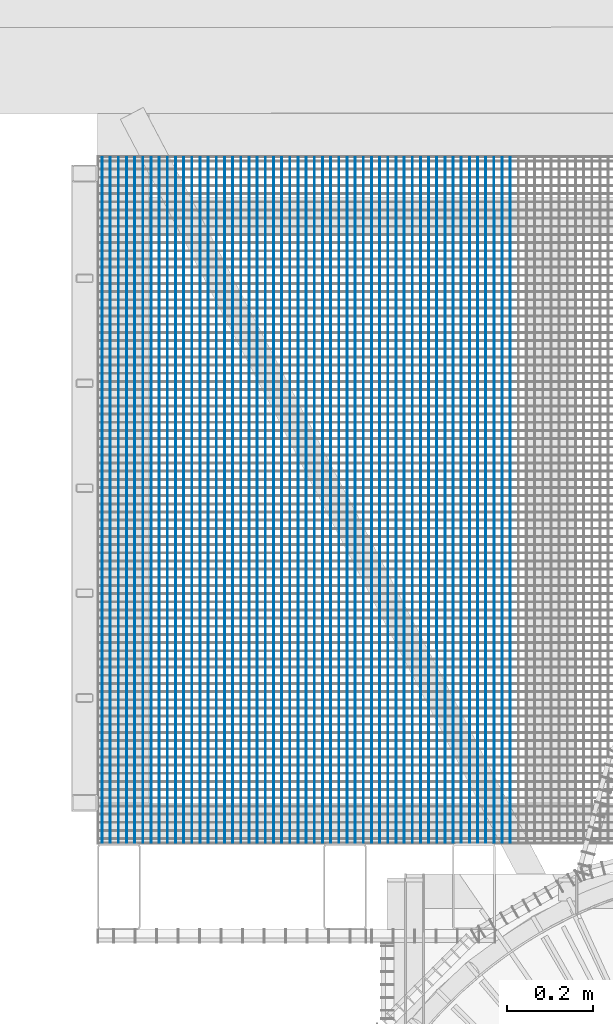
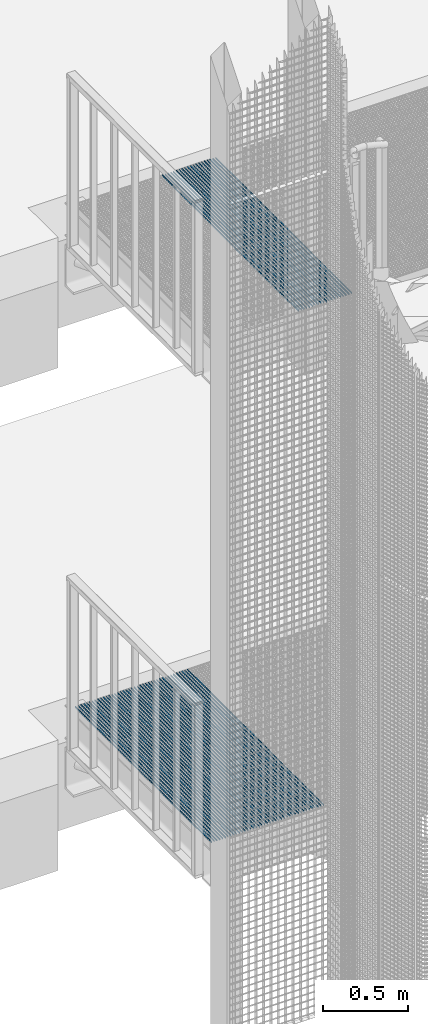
# One storey, part 80 of 1183: 61 beams, 2 elements without a shape of their own.
"""IFC2X3 building model written with IfcOpenShell, lengths in millimetres."""

from ifc_helpers import new_model, si_unit, frame, origin_with_axes, origin_2d_with_axis, place, context, subcontext, project, spatial, rectangle, extrude, material, type_object, element, aggregate, save


model = new_model("IFC2X3")

# Units and contexts
model_context = context("Model", 3, precision=1e-05, world=origin_with_axes())
body_context = subcontext(model_context, "Body", "Model", "MODEL_VIEW")
ifc_project = project(units=[si_unit("LENGTHUNIT", "METRE", prefix="MILLI"), si_unit("AREAUNIT", "SQUARE_METRE"), si_unit("VOLUMEUNIT", "CUBIC_METRE"), si_unit("MASSUNIT", "GRAM", prefix="KILO"), si_unit("TIMEUNIT", "SECOND"), si_unit("PLANEANGLEUNIT", "RADIAN"), si_unit("SOLIDANGLEUNIT", "STERADIAN"), si_unit("THERMODYNAMICTEMPERATUREUNIT", "DEGREE_CELSIUS"), si_unit("LUMINOUSINTENSITYUNIT", "LUMEN")], contexts=[model_context])

# Site, building, storey
site_placement = place(None, origin_with_axes())
site = spatial("IfcSite", under=ifc_project, at=site_placement, Name="Undefined", CompositionType="ELEMENT")
building_placement = place(site_placement, origin_with_axes())
building = spatial("IfcBuilding", under=site, at=building_placement, Name="Undefined", CompositionType="ELEMENT")
storey_placement = place(building_placement, origin_with_axes())
storey = spatial("IfcBuildingStorey", under=building, at=storey_placement, Name="Undefined", CompositionType="ELEMENT", Elevation=0.0)

# Assembly, beams
assembly_1_placement = place(storey_placement, origin_with_axes())
assembly_1 = element("IfcElementAssembly", 1, at=assembly_1_placement, inside=storey, Name="BORDURE", AssemblyPlace="NOTDEFINED", PredefinedType="NOTDEFINED")
ifc_material = material(Name="STEEL/S235JR")
beam_type = type_object("IfcBeamType", Name="PL2*10", PredefinedType="NOTDEFINED")
beam_1_placement = place(assembly_1_placement, frame((-949.924575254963, 1101.99764311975, 10085.0), z_axis=(0.0, 0.0, 1.0), x_axis=(-4.50599999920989e-06, 0.999999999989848, 0.0)))
beam_1 = element("IfcBeam", 2, at=beam_1_placement, type_object=beam_type, material=ifc_material, Name="ENTRETOISE", context=body_context, shape_type="SweptSolid", body=[
    extrude(rectangle(XDim=2.0, YDim=10.0, at=origin_2d_with_axis()), frame((1596.0000000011, -1.35186458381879e-18, -7.27595761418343e-12), z_axis=(-1.0, 0.0, 0.0), x_axis=(0.0, -1.0, 0.0)), (0.0, 0.0, 1.0), 1596.0),
])
beam_2_placement = place(assembly_1_placement, frame((-930.924575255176, 1101.99773663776, 10085.0), z_axis=(0.0, 0.0, 1.0), x_axis=(-4.50599999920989e-06, 0.999999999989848, 0.0)))
beam_2 = element("IfcBeam", 3, at=beam_2_placement, type_object=beam_type, material=ifc_material, Name="ENTRETOISE", context=body_context, shape_type="SweptSolid", body=[
    extrude(rectangle(XDim=2.0, YDim=10.0, at=origin_2d_with_axis()), frame((1596.0000000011, -1.35186458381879e-18, -7.27595761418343e-12), z_axis=(-1.0, 0.0, 0.0), x_axis=(0.0, -1.0, 0.0)), (0.0, 0.0, 1.0), 1596.0),
])
beam_3_placement = place(assembly_1_placement, frame((-911.924575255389, 1101.99783015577, 10085.0), z_axis=(0.0, 0.0, 1.0), x_axis=(-4.50599999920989e-06, 0.999999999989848, 0.0)))
beam_3 = element("IfcBeam", 4, at=beam_3_placement, type_object=beam_type, material=ifc_material, Name="ENTRETOISE", context=body_context, shape_type="SweptSolid", body=[
    extrude(rectangle(XDim=2.0, YDim=10.0, at=origin_2d_with_axis()), frame((1596.0000000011, -1.35186458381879e-18, -7.27595761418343e-12), z_axis=(-1.0, 0.0, 0.0), x_axis=(0.0, -1.0, 0.0)), (0.0, 0.0, 1.0), 1596.0),
])
beam_4_placement = place(assembly_1_placement, frame((-892.924575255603, 1101.99792367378, 10085.0), z_axis=(0.0, 0.0, 1.0), x_axis=(-4.50599999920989e-06, 0.999999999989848, 0.0)))
beam_4 = element("IfcBeam", 5, at=beam_4_placement, type_object=beam_type, material=ifc_material, Name="ENTRETOISE", context=body_context, shape_type="SweptSolid", body=[
    extrude(rectangle(XDim=2.0, YDim=10.0, at=origin_2d_with_axis()), frame((1596.0000000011, -1.35186458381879e-18, -7.27595761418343e-12), z_axis=(-1.0, 0.0, 0.0), x_axis=(0.0, -1.0, 0.0)), (0.0, 0.0, 1.0), 1596.0),
])
beam_5_placement = place(assembly_1_placement, frame((-873.924575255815, 1101.99801719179, 10085.0), z_axis=(0.0, 0.0, 1.0), x_axis=(-4.50599999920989e-06, 0.999999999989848, 0.0)))
beam_5 = element("IfcBeam", 6, at=beam_5_placement, type_object=beam_type, material=ifc_material, Name="ENTRETOISE", context=body_context, shape_type="SweptSolid", body=[
    extrude(rectangle(XDim=2.0, YDim=10.0, at=origin_2d_with_axis()), frame((1596.0000000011, -1.35186458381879e-18, -7.27595761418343e-12), z_axis=(-1.0, 0.0, 0.0), x_axis=(0.0, -1.0, 0.0)), (0.0, 0.0, 1.0), 1596.0),
])
beam_6_placement = place(assembly_1_placement, frame((-854.924575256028, 1101.9981107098, 10085.0), z_axis=(0.0, 0.0, 1.0), x_axis=(-4.50599999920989e-06, 0.999999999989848, 0.0)))
beam_6 = element("IfcBeam", 7, at=beam_6_placement, type_object=beam_type, material=ifc_material, Name="ENTRETOISE", context=body_context, shape_type="SweptSolid", body=[
    extrude(rectangle(XDim=2.0, YDim=10.0, at=origin_2d_with_axis()), frame((1596.0000000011, -1.35186458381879e-18, -7.27595761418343e-12), z_axis=(-1.0, 0.0, 0.0), x_axis=(0.0, -1.0, 0.0)), (0.0, 0.0, 1.0), 1596.0),
])
beam_7_placement = place(assembly_1_placement, frame((-835.924575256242, 1101.99820422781, 10085.0), z_axis=(0.0, 0.0, 1.0), x_axis=(-4.50599999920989e-06, 0.999999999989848, 0.0)))
beam_7 = element("IfcBeam", 8, at=beam_7_placement, type_object=beam_type, material=ifc_material, Name="ENTRETOISE", context=body_context, shape_type="SweptSolid", body=[
    extrude(rectangle(XDim=2.0, YDim=10.0, at=origin_2d_with_axis()), frame((1596.0000000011, -1.35186458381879e-18, -7.27595761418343e-12), z_axis=(-1.0, 0.0, 0.0), x_axis=(0.0, -1.0, 0.0)), (0.0, 0.0, 1.0), 1596.0),
])
beam_8_placement = place(assembly_1_placement, frame((-816.924575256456, 1101.99829774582, 10085.0), z_axis=(0.0, 0.0, 1.0), x_axis=(-4.50599999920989e-06, 0.999999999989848, 0.0)))
beam_8 = element("IfcBeam", 9, at=beam_8_placement, type_object=beam_type, material=ifc_material, Name="ENTRETOISE", context=body_context, shape_type="SweptSolid", body=[
    extrude(rectangle(XDim=2.0, YDim=10.0, at=origin_2d_with_axis()), frame((1596.0000000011, -1.35186458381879e-18, -7.27595761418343e-12), z_axis=(-1.0, 0.0, 0.0), x_axis=(0.0, -1.0, 0.0)), (0.0, 0.0, 1.0), 1596.0),
])
beam_9_placement = place(assembly_1_placement, frame((-797.924575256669, 1101.99839126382, 10085.0), z_axis=(0.0, 0.0, 1.0), x_axis=(-4.50599999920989e-06, 0.999999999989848, 0.0)))
beam_9 = element("IfcBeam", 10, at=beam_9_placement, type_object=beam_type, material=ifc_material, Name="ENTRETOISE", context=body_context, shape_type="SweptSolid", body=[
    extrude(rectangle(XDim=2.0, YDim=10.0, at=origin_2d_with_axis()), frame((1596.0000000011, -1.35186458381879e-18, -7.27595761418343e-12), z_axis=(-1.0, 0.0, 0.0), x_axis=(0.0, -1.0, 0.0)), (0.0, 0.0, 1.0), 1596.0),
])
beam_10_placement = place(assembly_1_placement, frame((-778.924575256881, 1101.99848478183, 10085.0), z_axis=(0.0, 0.0, 1.0), x_axis=(-4.50599999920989e-06, 0.999999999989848, 0.0)))
beam_10 = element("IfcBeam", 11, at=beam_10_placement, type_object=beam_type, material=ifc_material, Name="ENTRETOISE", context=body_context, shape_type="SweptSolid", body=[
    extrude(rectangle(XDim=2.0, YDim=10.0, at=origin_2d_with_axis()), frame((1596.0000000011, -1.35186458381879e-18, -7.27595761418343e-12), z_axis=(-1.0, 0.0, 0.0), x_axis=(0.0, -1.0, 0.0)), (0.0, 0.0, 1.0), 1596.0),
])
beam_11_placement = place(assembly_1_placement, frame((-759.924575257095, 1101.99857829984, 10085.0), z_axis=(0.0, 0.0, 1.0), x_axis=(-4.50599999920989e-06, 0.999999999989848, 0.0)))
beam_11 = element("IfcBeam", 12, at=beam_11_placement, type_object=beam_type, material=ifc_material, Name="ENTRETOISE", context=body_context, shape_type="SweptSolid", body=[
    extrude(rectangle(XDim=2.0, YDim=10.0, at=origin_2d_with_axis()), frame((1596.0000000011, -1.35186458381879e-18, -7.27595761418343e-12), z_axis=(-1.0, 0.0, 0.0), x_axis=(0.0, -1.0, 0.0)), (0.0, 0.0, 1.0), 1596.0),
])
beam_12_placement = place(assembly_1_placement, frame((-740.924575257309, 1101.99867181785, 10085.0), z_axis=(0.0, 0.0, 1.0), x_axis=(-4.50599999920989e-06, 0.999999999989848, 0.0)))
beam_12 = element("IfcBeam", 13, at=beam_12_placement, type_object=beam_type, material=ifc_material, Name="ENTRETOISE", context=body_context, shape_type="SweptSolid", body=[
    extrude(rectangle(XDim=2.0, YDim=10.0, at=origin_2d_with_axis()), frame((1596.0000000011, -1.35186458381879e-18, -7.27595761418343e-12), z_axis=(-1.0, 0.0, 0.0), x_axis=(0.0, -1.0, 0.0)), (0.0, 0.0, 1.0), 1596.0),
])
beam_13_placement = place(assembly_1_placement, frame((-721.924575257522, 1101.99876533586, 10085.0), z_axis=(0.0, 0.0, 1.0), x_axis=(-4.50599999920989e-06, 0.999999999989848, 0.0)))
beam_13 = element("IfcBeam", 14, at=beam_13_placement, type_object=beam_type, material=ifc_material, Name="ENTRETOISE", context=body_context, shape_type="SweptSolid", body=[
    extrude(rectangle(XDim=2.0, YDim=10.0, at=origin_2d_with_axis()), frame((1596.0000000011, -1.35186458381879e-18, -7.27595761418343e-12), z_axis=(-1.0, 0.0, 0.0), x_axis=(0.0, -1.0, 0.0)), (0.0, 0.0, 1.0), 1596.0),
])
beam_14_placement = place(assembly_1_placement, frame((-702.924575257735, 1101.99885885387, 10085.0), z_axis=(0.0, 0.0, 1.0), x_axis=(-4.50599999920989e-06, 0.999999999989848, 0.0)))
beam_14 = element("IfcBeam", 15, at=beam_14_placement, type_object=beam_type, material=ifc_material, Name="ENTRETOISE", context=body_context, shape_type="SweptSolid", body=[
    extrude(rectangle(XDim=2.0, YDim=10.0, at=origin_2d_with_axis()), frame((1596.0000000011, -1.35186458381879e-18, -7.27595761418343e-12), z_axis=(-1.0, 0.0, 0.0), x_axis=(0.0, -1.0, 0.0)), (0.0, 0.0, 1.0), 1596.0),
])
beam_15_placement = place(assembly_1_placement, frame((-683.924575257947, 1101.99895237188, 10085.0), z_axis=(0.0, 0.0, 1.0), x_axis=(-4.50599999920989e-06, 0.999999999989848, 0.0)))
beam_15 = element("IfcBeam", 16, at=beam_15_placement, type_object=beam_type, material=ifc_material, Name="ENTRETOISE", context=body_context, shape_type="SweptSolid", body=[
    extrude(rectangle(XDim=2.0, YDim=10.0, at=origin_2d_with_axis()), frame((1596.0000000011, -1.35186458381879e-18, -7.27595761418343e-12), z_axis=(-1.0, 0.0, 0.0), x_axis=(0.0, -1.0, 0.0)), (0.0, 0.0, 1.0), 1596.0),
])
beam_16_placement = place(assembly_1_placement, frame((-664.924575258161, 1101.99904588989, 10085.0), z_axis=(0.0, 0.0, 1.0), x_axis=(-4.50599999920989e-06, 0.999999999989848, 0.0)))
beam_16 = element("IfcBeam", 17, at=beam_16_placement, type_object=beam_type, material=ifc_material, Name="ENTRETOISE", context=body_context, shape_type="SweptSolid", body=[
    extrude(rectangle(XDim=2.0, YDim=10.0, at=origin_2d_with_axis()), frame((1596.0000000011, -1.35186458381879e-18, -7.27595761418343e-12), z_axis=(-1.0, 0.0, 0.0), x_axis=(0.0, -1.0, 0.0)), (0.0, 0.0, 1.0), 1596.0),
])
beam_17_placement = place(assembly_1_placement, frame((-645.924575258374, 1101.9991394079, 10085.0), z_axis=(0.0, 0.0, 1.0), x_axis=(-4.50599999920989e-06, 0.999999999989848, 0.0)))
beam_17 = element("IfcBeam", 18, at=beam_17_placement, type_object=beam_type, material=ifc_material, Name="ENTRETOISE", context=body_context, shape_type="SweptSolid", body=[
    extrude(rectangle(XDim=2.0, YDim=10.0, at=origin_2d_with_axis()), frame((1596.0000000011, -1.35186458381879e-18, -7.27595761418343e-12), z_axis=(-1.0, 0.0, 0.0), x_axis=(0.0, -1.0, 0.0)), (0.0, 0.0, 1.0), 1596.0),
])
beam_18_placement = place(assembly_1_placement, frame((-626.924575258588, 1101.99923292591, 10085.0), z_axis=(0.0, 0.0, 1.0), x_axis=(-4.50599999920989e-06, 0.999999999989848, 0.0)))
beam_18 = element("IfcBeam", 19, at=beam_18_placement, type_object=beam_type, material=ifc_material, Name="ENTRETOISE", context=body_context, shape_type="SweptSolid", body=[
    extrude(rectangle(XDim=2.0, YDim=10.0, at=origin_2d_with_axis()), frame((1596.0000000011, -1.35186458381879e-18, -7.27595761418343e-12), z_axis=(-1.0, 0.0, 0.0), x_axis=(0.0, -1.0, 0.0)), (0.0, 0.0, 1.0), 1596.0),
])
beam_19_placement = place(assembly_1_placement, frame((-607.9245752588, 1101.99932644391, 10085.0), z_axis=(0.0, 0.0, 1.0), x_axis=(-4.50599999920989e-06, 0.999999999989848, 0.0)))
beam_19 = element("IfcBeam", 20, at=beam_19_placement, type_object=beam_type, material=ifc_material, Name="ENTRETOISE", context=body_context, shape_type="SweptSolid", body=[
    extrude(rectangle(XDim=2.0, YDim=10.0, at=origin_2d_with_axis()), frame((1596.0000000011, -1.35186458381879e-18, -7.27595761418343e-12), z_axis=(-1.0, 0.0, 0.0), x_axis=(0.0, -1.0, 0.0)), (0.0, 0.0, 1.0), 1596.0),
])
beam_20_placement = place(assembly_1_placement, frame((-588.924575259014, 1101.99941996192, 10085.0), z_axis=(0.0, 0.0, 1.0), x_axis=(-4.50599999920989e-06, 0.999999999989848, 0.0)))
beam_20 = element("IfcBeam", 21, at=beam_20_placement, type_object=beam_type, material=ifc_material, Name="ENTRETOISE", context=body_context, shape_type="SweptSolid", body=[
    extrude(rectangle(XDim=2.0, YDim=10.0, at=origin_2d_with_axis()), frame((1596.0000000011, -1.35186458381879e-18, -7.27595761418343e-12), z_axis=(-1.0, 0.0, 0.0), x_axis=(0.0, -1.0, 0.0)), (0.0, 0.0, 1.0), 1596.0),
])
aggregate(assembly_1, [beam_1, beam_2, beam_3, beam_4, beam_5, beam_6, beam_7, beam_8, beam_9, beam_10, beam_11, beam_12, beam_13, beam_14, beam_15, beam_16, beam_17, beam_18, beam_19, beam_20])

assembly_2_placement = place(storey_placement, origin_with_axes())
assembly_2 = element("IfcElementAssembly", 22, at=assembly_2_placement, inside=storey, Name="BORDURE", AssemblyPlace="NOTDEFINED", PredefinedType="NOTDEFINED")
beam_21_placement = place(assembly_2_placement, frame((-1538.92457524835, 1101.99474406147, 6485.0), z_axis=(0.0, 0.0, 1.0), x_axis=(-4.50599999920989e-06, 0.999999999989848, 0.0)))
beam_21 = element("IfcBeam", 23, at=beam_21_placement, type_object=beam_type, material=ifc_material, Name="ENTRETOISE", context=body_context, shape_type="SweptSolid", body=[
    extrude(rectangle(XDim=2.0, YDim=10.0, at=origin_2d_with_axis()), frame((1596.0000000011, -1.35186458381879e-18, -7.27595761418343e-12), z_axis=(-1.0, 0.0, 0.0), x_axis=(0.0, -1.0, 0.0)), (0.0, 0.0, 1.0), 1596.0),
])
beam_22_placement = place(assembly_2_placement, frame((-1519.92457524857, 1101.99483757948, 6485.0), z_axis=(0.0, 0.0, 1.0), x_axis=(-4.50599999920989e-06, 0.999999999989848, 0.0)))
beam_22 = element("IfcBeam", 24, at=beam_22_placement, type_object=beam_type, material=ifc_material, Name="ENTRETOISE", context=body_context, shape_type="SweptSolid", body=[
    extrude(rectangle(XDim=2.0, YDim=10.0, at=origin_2d_with_axis()), frame((1596.0000000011, -1.35186458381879e-18, -7.27595761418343e-12), z_axis=(-1.0, 0.0, 0.0), x_axis=(0.0, -1.0, 0.0)), (0.0, 0.0, 1.0), 1596.0),
])
beam_23_placement = place(assembly_2_placement, frame((-1500.92457524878, 1101.99493109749, 6485.0), z_axis=(0.0, 0.0, 1.0), x_axis=(-4.50599999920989e-06, 0.999999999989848, 0.0)))
beam_23 = element("IfcBeam", 25, at=beam_23_placement, type_object=beam_type, material=ifc_material, Name="ENTRETOISE", context=body_context, shape_type="SweptSolid", body=[
    extrude(rectangle(XDim=2.0, YDim=10.0, at=origin_2d_with_axis()), frame((1596.0000000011, -1.35186458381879e-18, -7.27595761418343e-12), z_axis=(-1.0, 0.0, 0.0), x_axis=(0.0, -1.0, 0.0)), (0.0, 0.0, 1.0), 1596.0),
])
beam_24_placement = place(assembly_2_placement, frame((-1481.92457524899, 1101.9950246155, 6485.0), z_axis=(0.0, 0.0, 1.0), x_axis=(-4.50599999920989e-06, 0.999999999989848, 0.0)))
beam_24 = element("IfcBeam", 26, at=beam_24_placement, type_object=beam_type, material=ifc_material, Name="ENTRETOISE", context=body_context, shape_type="SweptSolid", body=[
    extrude(rectangle(XDim=2.0, YDim=10.0, at=origin_2d_with_axis()), frame((1596.0000000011, -1.35186458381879e-18, -7.27595761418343e-12), z_axis=(-1.0, 0.0, 0.0), x_axis=(0.0, -1.0, 0.0)), (0.0, 0.0, 1.0), 1596.0),
])
beam_25_placement = place(assembly_2_placement, frame((-1462.92457524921, 1101.99511813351, 6485.0), z_axis=(0.0, 0.0, 1.0), x_axis=(-4.50599999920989e-06, 0.999999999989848, 0.0)))
beam_25 = element("IfcBeam", 27, at=beam_25_placement, type_object=beam_type, material=ifc_material, Name="ENTRETOISE", context=body_context, shape_type="SweptSolid", body=[
    extrude(rectangle(XDim=2.0, YDim=10.0, at=origin_2d_with_axis()), frame((1596.0000000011, -1.35186458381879e-18, -7.27595761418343e-12), z_axis=(-1.0, 0.0, 0.0), x_axis=(0.0, -1.0, 0.0)), (0.0, 0.0, 1.0), 1596.0),
])
beam_26_placement = place(assembly_2_placement, frame((-1443.92457524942, 1101.99521165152, 6485.0), z_axis=(0.0, 0.0, 1.0), x_axis=(-4.50599999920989e-06, 0.999999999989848, 0.0)))
beam_26 = element("IfcBeam", 28, at=beam_26_placement, type_object=beam_type, material=ifc_material, Name="ENTRETOISE", context=body_context, shape_type="SweptSolid", body=[
    extrude(rectangle(XDim=2.0, YDim=10.0, at=origin_2d_with_axis()), frame((1596.0000000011, -1.35186458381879e-18, -7.27595761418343e-12), z_axis=(-1.0, 0.0, 0.0), x_axis=(0.0, -1.0, 0.0)), (0.0, 0.0, 1.0), 1596.0),
])
beam_27_placement = place(assembly_2_placement, frame((-1424.92457524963, 1101.99530516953, 6485.0), z_axis=(0.0, 0.0, 1.0), x_axis=(-4.50599999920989e-06, 0.999999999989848, 0.0)))
beam_27 = element("IfcBeam", 29, at=beam_27_placement, type_object=beam_type, material=ifc_material, Name="ENTRETOISE", context=body_context, shape_type="SweptSolid", body=[
    extrude(rectangle(XDim=2.0, YDim=10.0, at=origin_2d_with_axis()), frame((1596.0000000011, -1.35186458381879e-18, -7.27595761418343e-12), z_axis=(-1.0, 0.0, 0.0), x_axis=(0.0, -1.0, 0.0)), (0.0, 0.0, 1.0), 1596.0),
])
beam_28_placement = place(assembly_2_placement, frame((-1405.92457524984, 1101.99539868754, 6485.0), z_axis=(0.0, 0.0, 1.0), x_axis=(-4.50599999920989e-06, 0.999999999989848, 0.0)))
beam_28 = element("IfcBeam", 30, at=beam_28_placement, type_object=beam_type, material=ifc_material, Name="ENTRETOISE", context=body_context, shape_type="SweptSolid", body=[
    extrude(rectangle(XDim=2.0, YDim=10.0, at=origin_2d_with_axis()), frame((1596.0000000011, -1.35186458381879e-18, -7.27595761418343e-12), z_axis=(-1.0, 0.0, 0.0), x_axis=(0.0, -1.0, 0.0)), (0.0, 0.0, 1.0), 1596.0),
])
beam_29_placement = place(assembly_2_placement, frame((-1386.92457525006, 1101.99549220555, 6485.0), z_axis=(0.0, 0.0, 1.0), x_axis=(-4.50599999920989e-06, 0.999999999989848, 0.0)))
beam_29 = element("IfcBeam", 31, at=beam_29_placement, type_object=beam_type, material=ifc_material, Name="ENTRETOISE", context=body_context, shape_type="SweptSolid", body=[
    extrude(rectangle(XDim=2.0, YDim=10.0, at=origin_2d_with_axis()), frame((1596.0000000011, -1.35186458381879e-18, -7.27595761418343e-12), z_axis=(-1.0, 0.0, 0.0), x_axis=(0.0, -1.0, 0.0)), (0.0, 0.0, 1.0), 1596.0),
])
beam_30_placement = place(assembly_2_placement, frame((-1367.92457525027, 1101.99558572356, 6485.0), z_axis=(0.0, 0.0, 1.0), x_axis=(-4.50599999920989e-06, 0.999999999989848, 0.0)))
beam_30 = element("IfcBeam", 32, at=beam_30_placement, type_object=beam_type, material=ifc_material, Name="ENTRETOISE", context=body_context, shape_type="SweptSolid", body=[
    extrude(rectangle(XDim=2.0, YDim=10.0, at=origin_2d_with_axis()), frame((1596.0000000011, -1.35186458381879e-18, -7.27595761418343e-12), z_axis=(-1.0, 0.0, 0.0), x_axis=(0.0, -1.0, 0.0)), (0.0, 0.0, 1.0), 1596.0),
])
beam_31_placement = place(assembly_2_placement, frame((-1348.92457525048, 1101.99567924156, 6485.0), z_axis=(0.0, 0.0, 1.0), x_axis=(-4.50599999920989e-06, 0.999999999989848, 0.0)))
beam_31 = element("IfcBeam", 33, at=beam_31_placement, type_object=beam_type, material=ifc_material, Name="ENTRETOISE", context=body_context, shape_type="SweptSolid", body=[
    extrude(rectangle(XDim=2.0, YDim=10.0, at=origin_2d_with_axis()), frame((1596.0000000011, -1.35186458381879e-18, -7.27595761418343e-12), z_axis=(-1.0, 0.0, 0.0), x_axis=(0.0, -1.0, 0.0)), (0.0, 0.0, 1.0), 1596.0),
])
beam_32_placement = place(assembly_2_placement, frame((-1329.9245752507, 1101.99577275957, 6485.0), z_axis=(0.0, 0.0, 1.0), x_axis=(-4.50599999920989e-06, 0.999999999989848, 0.0)))
beam_32 = element("IfcBeam", 34, at=beam_32_placement, type_object=beam_type, material=ifc_material, Name="ENTRETOISE", context=body_context, shape_type="SweptSolid", body=[
    extrude(rectangle(XDim=2.0, YDim=10.0, at=origin_2d_with_axis()), frame((1596.0000000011, -1.35186458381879e-18, -7.27595761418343e-12), z_axis=(-1.0, 0.0, 0.0), x_axis=(0.0, -1.0, 0.0)), (0.0, 0.0, 1.0), 1596.0),
])
beam_33_placement = place(assembly_2_placement, frame((-1310.92457525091, 1101.99586627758, 6485.0), z_axis=(0.0, 0.0, 1.0), x_axis=(-4.50599999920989e-06, 0.999999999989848, 0.0)))
beam_33 = element("IfcBeam", 35, at=beam_33_placement, type_object=beam_type, material=ifc_material, Name="ENTRETOISE", context=body_context, shape_type="SweptSolid", body=[
    extrude(rectangle(XDim=2.0, YDim=10.0, at=origin_2d_with_axis()), frame((1596.0000000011, -1.35186458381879e-18, -7.27595761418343e-12), z_axis=(-1.0, 0.0, 0.0), x_axis=(0.0, -1.0, 0.0)), (0.0, 0.0, 1.0), 1596.0),
])
beam_34_placement = place(assembly_2_placement, frame((-1291.92457525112, 1101.99595979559, 6485.0), z_axis=(0.0, 0.0, 1.0), x_axis=(-4.50599999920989e-06, 0.999999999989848, 0.0)))
beam_34 = element("IfcBeam", 36, at=beam_34_placement, type_object=beam_type, material=ifc_material, Name="ENTRETOISE", context=body_context, shape_type="SweptSolid", body=[
    extrude(rectangle(XDim=2.0, YDim=10.0, at=origin_2d_with_axis()), frame((1596.0000000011, -1.35186458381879e-18, -7.27595761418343e-12), z_axis=(-1.0, 0.0, 0.0), x_axis=(0.0, -1.0, 0.0)), (0.0, 0.0, 1.0), 1596.0),
])
beam_35_placement = place(assembly_2_placement, frame((-1272.92457525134, 1101.9960533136, 6485.0), z_axis=(0.0, 0.0, 1.0), x_axis=(-4.50599999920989e-06, 0.999999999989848, 0.0)))
beam_35 = element("IfcBeam", 37, at=beam_35_placement, type_object=beam_type, material=ifc_material, Name="ENTRETOISE", context=body_context, shape_type="SweptSolid", body=[
    extrude(rectangle(XDim=2.0, YDim=10.0, at=origin_2d_with_axis()), frame((1596.0000000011, -1.35186458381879e-18, -7.27595761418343e-12), z_axis=(-1.0, 0.0, 0.0), x_axis=(0.0, -1.0, 0.0)), (0.0, 0.0, 1.0), 1596.0),
])
beam_36_placement = place(assembly_2_placement, frame((-1253.92457525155, 1101.99614683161, 6485.0), z_axis=(0.0, 0.0, 1.0), x_axis=(-4.50599999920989e-06, 0.999999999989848, 0.0)))
beam_36 = element("IfcBeam", 38, at=beam_36_placement, type_object=beam_type, material=ifc_material, Name="ENTRETOISE", context=body_context, shape_type="SweptSolid", body=[
    extrude(rectangle(XDim=2.0, YDim=10.0, at=origin_2d_with_axis()), frame((1596.0000000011, -1.35186458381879e-18, -7.27595761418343e-12), z_axis=(-1.0, 0.0, 0.0), x_axis=(0.0, -1.0, 0.0)), (0.0, 0.0, 1.0), 1596.0),
])
beam_37_placement = place(assembly_2_placement, frame((-1234.92457525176, 1101.99624034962, 6485.0), z_axis=(0.0, 0.0, 1.0), x_axis=(-4.50599999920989e-06, 0.999999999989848, 0.0)))
beam_37 = element("IfcBeam", 39, at=beam_37_placement, type_object=beam_type, material=ifc_material, Name="ENTRETOISE", context=body_context, shape_type="SweptSolid", body=[
    extrude(rectangle(XDim=2.0, YDim=10.0, at=origin_2d_with_axis()), frame((1596.0000000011, -1.35186458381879e-18, -7.27595761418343e-12), z_axis=(-1.0, 0.0, 0.0), x_axis=(0.0, -1.0, 0.0)), (0.0, 0.0, 1.0), 1596.0),
])
beam_38_placement = place(assembly_2_placement, frame((-1215.92457525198, 1101.99633386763, 6485.0), z_axis=(0.0, 0.0, 1.0), x_axis=(-4.50599999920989e-06, 0.999999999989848, 0.0)))
beam_38 = element("IfcBeam", 40, at=beam_38_placement, type_object=beam_type, material=ifc_material, Name="ENTRETOISE", context=body_context, shape_type="SweptSolid", body=[
    extrude(rectangle(XDim=2.0, YDim=10.0, at=origin_2d_with_axis()), frame((1596.0000000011, -1.35186458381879e-18, -7.27595761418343e-12), z_axis=(-1.0, 0.0, 0.0), x_axis=(0.0, -1.0, 0.0)), (0.0, 0.0, 1.0), 1596.0),
])
beam_39_placement = place(assembly_2_placement, frame((-1196.92457525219, 1101.99642738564, 6485.0), z_axis=(0.0, 0.0, 1.0), x_axis=(-4.50599999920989e-06, 0.999999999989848, 0.0)))
beam_39 = element("IfcBeam", 41, at=beam_39_placement, type_object=beam_type, material=ifc_material, Name="ENTRETOISE", context=body_context, shape_type="SweptSolid", body=[
    extrude(rectangle(XDim=2.0, YDim=10.0, at=origin_2d_with_axis()), frame((1596.0000000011, -1.35186458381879e-18, -7.27595761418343e-12), z_axis=(-1.0, 0.0, 0.0), x_axis=(0.0, -1.0, 0.0)), (0.0, 0.0, 1.0), 1596.0),
])
beam_40_placement = place(assembly_2_placement, frame((-1177.9245752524, 1101.99652090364, 6485.0), z_axis=(0.0, 0.0, 1.0), x_axis=(-4.50599999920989e-06, 0.999999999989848, 0.0)))
beam_40 = element("IfcBeam", 42, at=beam_40_placement, type_object=beam_type, material=ifc_material, Name="ENTRETOISE", context=body_context, shape_type="SweptSolid", body=[
    extrude(rectangle(XDim=2.0, YDim=10.0, at=origin_2d_with_axis()), frame((1596.0000000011, -1.35186458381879e-18, -7.27595761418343e-12), z_axis=(-1.0, 0.0, 0.0), x_axis=(0.0, -1.0, 0.0)), (0.0, 0.0, 1.0), 1596.0),
])
beam_41_placement = place(assembly_2_placement, frame((-1158.92457525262, 1101.99661442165, 6485.0), z_axis=(0.0, 0.0, 1.0), x_axis=(-4.50599999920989e-06, 0.999999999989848, 0.0)))
beam_41 = element("IfcBeam", 43, at=beam_41_placement, type_object=beam_type, material=ifc_material, Name="ENTRETOISE", context=body_context, shape_type="SweptSolid", body=[
    extrude(rectangle(XDim=2.0, YDim=10.0, at=origin_2d_with_axis()), frame((1596.0000000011, -1.35186458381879e-18, -7.27595761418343e-12), z_axis=(-1.0, 0.0, 0.0), x_axis=(0.0, -1.0, 0.0)), (0.0, 0.0, 1.0), 1596.0),
])
beam_42_placement = place(assembly_2_placement, frame((-1139.92457525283, 1101.99670793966, 6485.0), z_axis=(0.0, 0.0, 1.0), x_axis=(-4.50599999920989e-06, 0.999999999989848, 0.0)))
beam_42 = element("IfcBeam", 44, at=beam_42_placement, type_object=beam_type, material=ifc_material, Name="ENTRETOISE", context=body_context, shape_type="SweptSolid", body=[
    extrude(rectangle(XDim=2.0, YDim=10.0, at=origin_2d_with_axis()), frame((1596.0000000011, -1.35186458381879e-18, -7.27595761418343e-12), z_axis=(-1.0, 0.0, 0.0), x_axis=(0.0, -1.0, 0.0)), (0.0, 0.0, 1.0), 1596.0),
])
beam_43_placement = place(assembly_2_placement, frame((-1120.92457525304, 1101.99680145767, 6485.0), z_axis=(0.0, 0.0, 1.0), x_axis=(-4.50599999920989e-06, 0.999999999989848, 0.0)))
beam_43 = element("IfcBeam", 45, at=beam_43_placement, type_object=beam_type, material=ifc_material, Name="ENTRETOISE", context=body_context, shape_type="SweptSolid", body=[
    extrude(rectangle(XDim=2.0, YDim=10.0, at=origin_2d_with_axis()), frame((1596.0000000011, -1.35186458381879e-18, -7.27595761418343e-12), z_axis=(-1.0, 0.0, 0.0), x_axis=(0.0, -1.0, 0.0)), (0.0, 0.0, 1.0), 1596.0),
])
beam_44_placement = place(assembly_2_placement, frame((-1101.92457525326, 1101.99689497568, 6485.0), z_axis=(0.0, 0.0, 1.0), x_axis=(-4.50599999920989e-06, 0.999999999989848, 0.0)))
beam_44 = element("IfcBeam", 46, at=beam_44_placement, type_object=beam_type, material=ifc_material, Name="ENTRETOISE", context=body_context, shape_type="SweptSolid", body=[
    extrude(rectangle(XDim=2.0, YDim=10.0, at=origin_2d_with_axis()), frame((1596.0000000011, -1.35186458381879e-18, -7.27595761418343e-12), z_axis=(-1.0, 0.0, 0.0), x_axis=(0.0, -1.0, 0.0)), (0.0, 0.0, 1.0), 1596.0),
])
beam_45_placement = place(assembly_2_placement, frame((-1082.92457525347, 1101.99698849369, 6485.0), z_axis=(0.0, 0.0, 1.0), x_axis=(-4.50599999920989e-06, 0.999999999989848, 0.0)))
beam_45 = element("IfcBeam", 47, at=beam_45_placement, type_object=beam_type, material=ifc_material, Name="ENTRETOISE", context=body_context, shape_type="SweptSolid", body=[
    extrude(rectangle(XDim=2.0, YDim=10.0, at=origin_2d_with_axis()), frame((1596.0000000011, -1.35186458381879e-18, -7.27595761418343e-12), z_axis=(-1.0, 0.0, 0.0), x_axis=(0.0, -1.0, 0.0)), (0.0, 0.0, 1.0), 1596.0),
])
beam_46_placement = place(assembly_2_placement, frame((-1063.92457525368, 1101.9970820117, 6485.0), z_axis=(0.0, 0.0, 1.0), x_axis=(-4.50599999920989e-06, 0.999999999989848, 0.0)))
beam_46 = element("IfcBeam", 48, at=beam_46_placement, type_object=beam_type, material=ifc_material, Name="ENTRETOISE", context=body_context, shape_type="SweptSolid", body=[
    extrude(rectangle(XDim=2.0, YDim=10.0, at=origin_2d_with_axis()), frame((1596.0000000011, -1.35186458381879e-18, -7.27595761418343e-12), z_axis=(-1.0, 0.0, 0.0), x_axis=(0.0, -1.0, 0.0)), (0.0, 0.0, 1.0), 1596.0),
])
beam_47_placement = place(assembly_2_placement, frame((-1044.9245752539, 1101.99717552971, 6485.0), z_axis=(0.0, 0.0, 1.0), x_axis=(-4.50599999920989e-06, 0.999999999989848, 0.0)))
beam_47 = element("IfcBeam", 49, at=beam_47_placement, type_object=beam_type, material=ifc_material, Name="ENTRETOISE", context=body_context, shape_type="SweptSolid", body=[
    extrude(rectangle(XDim=2.0, YDim=10.0, at=origin_2d_with_axis()), frame((1596.0000000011, -1.35186458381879e-18, -7.27595761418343e-12), z_axis=(-1.0, 0.0, 0.0), x_axis=(0.0, -1.0, 0.0)), (0.0, 0.0, 1.0), 1596.0),
])
beam_48_placement = place(assembly_2_placement, frame((-1025.92457525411, 1101.99726904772, 6485.0), z_axis=(0.0, 0.0, 1.0), x_axis=(-4.50599999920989e-06, 0.999999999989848, 0.0)))
beam_48 = element("IfcBeam", 50, at=beam_48_placement, type_object=beam_type, material=ifc_material, Name="ENTRETOISE", context=body_context, shape_type="SweptSolid", body=[
    extrude(rectangle(XDim=2.0, YDim=10.0, at=origin_2d_with_axis()), frame((1596.0000000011, -1.35186458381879e-18, -7.27595761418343e-12), z_axis=(-1.0, 0.0, 0.0), x_axis=(0.0, -1.0, 0.0)), (0.0, 0.0, 1.0), 1596.0),
])
beam_49_placement = place(assembly_2_placement, frame((-1006.92457525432, 1101.99736256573, 6485.0), z_axis=(0.0, 0.0, 1.0), x_axis=(-4.50599999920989e-06, 0.999999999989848, 0.0)))
beam_49 = element("IfcBeam", 51, at=beam_49_placement, type_object=beam_type, material=ifc_material, Name="ENTRETOISE", context=body_context, shape_type="SweptSolid", body=[
    extrude(rectangle(XDim=2.0, YDim=10.0, at=origin_2d_with_axis()), frame((1596.0000000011, -1.35186458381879e-18, -7.27595761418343e-12), z_axis=(-1.0, 0.0, 0.0), x_axis=(0.0, -1.0, 0.0)), (0.0, 0.0, 1.0), 1596.0),
])
beam_50_placement = place(assembly_2_placement, frame((-987.924575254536, 1101.99745608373, 6485.0), z_axis=(0.0, 0.0, 1.0), x_axis=(-4.50599999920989e-06, 0.999999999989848, 0.0)))
beam_50 = element("IfcBeam", 52, at=beam_50_placement, type_object=beam_type, material=ifc_material, Name="ENTRETOISE", context=body_context, shape_type="SweptSolid", body=[
    extrude(rectangle(XDim=2.0, YDim=10.0, at=origin_2d_with_axis()), frame((1596.0000000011, -1.35186458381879e-18, -7.27595761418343e-12), z_axis=(-1.0, 0.0, 0.0), x_axis=(0.0, -1.0, 0.0)), (0.0, 0.0, 1.0), 1596.0),
])
beam_51_placement = place(assembly_2_placement, frame((-968.924575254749, 1101.99754960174, 6485.0), z_axis=(0.0, 0.0, 1.0), x_axis=(-4.50599999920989e-06, 0.999999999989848, 0.0)))
beam_51 = element("IfcBeam", 53, at=beam_51_placement, type_object=beam_type, material=ifc_material, Name="ENTRETOISE", context=body_context, shape_type="SweptSolid", body=[
    extrude(rectangle(XDim=2.0, YDim=10.0, at=origin_2d_with_axis()), frame((1596.0000000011, -1.35186458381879e-18, -7.27595761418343e-12), z_axis=(-1.0, 0.0, 0.0), x_axis=(0.0, -1.0, 0.0)), (0.0, 0.0, 1.0), 1596.0),
])
beam_52_placement = place(assembly_2_placement, frame((-949.924575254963, 1101.99764311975, 6485.0), z_axis=(0.0, 0.0, 1.0), x_axis=(-4.50599999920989e-06, 0.999999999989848, 0.0)))
beam_52 = element("IfcBeam", 54, at=beam_52_placement, type_object=beam_type, material=ifc_material, Name="ENTRETOISE", context=body_context, shape_type="SweptSolid", body=[
    extrude(rectangle(XDim=2.0, YDim=10.0, at=origin_2d_with_axis()), frame((1596.0000000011, -1.35186458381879e-18, -7.27595761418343e-12), z_axis=(-1.0, 0.0, 0.0), x_axis=(0.0, -1.0, 0.0)), (0.0, 0.0, 1.0), 1596.0),
])
beam_53_placement = place(assembly_2_placement, frame((-930.924575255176, 1101.99773663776, 6485.0), z_axis=(0.0, 0.0, 1.0), x_axis=(-4.50599999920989e-06, 0.999999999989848, 0.0)))
beam_53 = element("IfcBeam", 55, at=beam_53_placement, type_object=beam_type, material=ifc_material, Name="ENTRETOISE", context=body_context, shape_type="SweptSolid", body=[
    extrude(rectangle(XDim=2.0, YDim=10.0, at=origin_2d_with_axis()), frame((1596.0000000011, -1.35186458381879e-18, -7.27595761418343e-12), z_axis=(-1.0, 0.0, 0.0), x_axis=(0.0, -1.0, 0.0)), (0.0, 0.0, 1.0), 1596.0),
])
beam_54_placement = place(assembly_2_placement, frame((-911.924575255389, 1101.99783015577, 6485.0), z_axis=(0.0, 0.0, 1.0), x_axis=(-4.50599999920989e-06, 0.999999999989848, 0.0)))
beam_54 = element("IfcBeam", 56, at=beam_54_placement, type_object=beam_type, material=ifc_material, Name="ENTRETOISE", context=body_context, shape_type="SweptSolid", body=[
    extrude(rectangle(XDim=2.0, YDim=10.0, at=origin_2d_with_axis()), frame((1596.0000000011, -1.35186458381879e-18, -7.27595761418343e-12), z_axis=(-1.0, 0.0, 0.0), x_axis=(0.0, -1.0, 0.0)), (0.0, 0.0, 1.0), 1596.0),
])
beam_55_placement = place(assembly_2_placement, frame((-892.924575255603, 1101.99792367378, 6485.0), z_axis=(0.0, 0.0, 1.0), x_axis=(-4.50599999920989e-06, 0.999999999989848, 0.0)))
beam_55 = element("IfcBeam", 57, at=beam_55_placement, type_object=beam_type, material=ifc_material, Name="ENTRETOISE", context=body_context, shape_type="SweptSolid", body=[
    extrude(rectangle(XDim=2.0, YDim=10.0, at=origin_2d_with_axis()), frame((1596.0000000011, -1.35186458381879e-18, -7.27595761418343e-12), z_axis=(-1.0, 0.0, 0.0), x_axis=(0.0, -1.0, 0.0)), (0.0, 0.0, 1.0), 1596.0),
])
beam_56_placement = place(assembly_2_placement, frame((-873.924575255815, 1101.99801719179, 6485.0), z_axis=(0.0, 0.0, 1.0), x_axis=(-4.50599999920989e-06, 0.999999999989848, 0.0)))
beam_56 = element("IfcBeam", 58, at=beam_56_placement, type_object=beam_type, material=ifc_material, Name="ENTRETOISE", context=body_context, shape_type="SweptSolid", body=[
    extrude(rectangle(XDim=2.0, YDim=10.0, at=origin_2d_with_axis()), frame((1596.0000000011, -1.35186458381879e-18, -7.27595761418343e-12), z_axis=(-1.0, 0.0, 0.0), x_axis=(0.0, -1.0, 0.0)), (0.0, 0.0, 1.0), 1596.0),
])
beam_57_placement = place(assembly_2_placement, frame((-854.92457525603, 1101.9981107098, 6485.0), z_axis=(0.0, 0.0, 1.0), x_axis=(-4.50599999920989e-06, 0.999999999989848, 0.0)))
beam_57 = element("IfcBeam", 59, at=beam_57_placement, type_object=beam_type, material=ifc_material, Name="ENTRETOISE", context=body_context, shape_type="SweptSolid", body=[
    extrude(rectangle(XDim=2.0, YDim=10.0, at=origin_2d_with_axis()), frame((1596.0000000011, -1.35186458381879e-18, -7.27595761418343e-12), z_axis=(-1.0, 0.0, 0.0), x_axis=(0.0, -1.0, 0.0)), (0.0, 0.0, 1.0), 1596.0),
])
beam_58_placement = place(assembly_2_placement, frame((-835.924575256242, 1101.99820422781, 6485.0), z_axis=(0.0, 0.0, 1.0), x_axis=(-4.50599999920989e-06, 0.999999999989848, 0.0)))
beam_58 = element("IfcBeam", 60, at=beam_58_placement, type_object=beam_type, material=ifc_material, Name="ENTRETOISE", context=body_context, shape_type="SweptSolid", body=[
    extrude(rectangle(XDim=2.0, YDim=10.0, at=origin_2d_with_axis()), frame((1596.0000000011, -1.35186458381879e-18, -7.27595761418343e-12), z_axis=(-1.0, 0.0, 0.0), x_axis=(0.0, -1.0, 0.0)), (0.0, 0.0, 1.0), 1596.0),
])
beam_59_placement = place(assembly_2_placement, frame((-816.924575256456, 1101.99829774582, 6485.0), z_axis=(0.0, 0.0, 1.0), x_axis=(-4.50599999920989e-06, 0.999999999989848, 0.0)))
beam_59 = element("IfcBeam", 61, at=beam_59_placement, type_object=beam_type, material=ifc_material, Name="ENTRETOISE", context=body_context, shape_type="SweptSolid", body=[
    extrude(rectangle(XDim=2.0, YDim=10.0, at=origin_2d_with_axis()), frame((1596.0000000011, -1.35186458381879e-18, -7.27595761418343e-12), z_axis=(-1.0, 0.0, 0.0), x_axis=(0.0, -1.0, 0.0)), (0.0, 0.0, 1.0), 1596.0),
])
beam_60_placement = place(assembly_2_placement, frame((-797.924575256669, 1101.99839126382, 6485.0), z_axis=(0.0, 0.0, 1.0), x_axis=(-4.50599999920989e-06, 0.999999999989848, 0.0)))
beam_60 = element("IfcBeam", 62, at=beam_60_placement, type_object=beam_type, material=ifc_material, Name="ENTRETOISE", context=body_context, shape_type="SweptSolid", body=[
    extrude(rectangle(XDim=2.0, YDim=10.0, at=origin_2d_with_axis()), frame((1596.0000000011, -1.35186458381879e-18, -7.27595761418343e-12), z_axis=(-1.0, 0.0, 0.0), x_axis=(0.0, -1.0, 0.0)), (0.0, 0.0, 1.0), 1596.0),
])
beam_61_placement = place(assembly_2_placement, frame((-778.924575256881, 1101.99848478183, 6485.0), z_axis=(0.0, 0.0, 1.0), x_axis=(-4.50599999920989e-06, 0.999999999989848, 0.0)))
beam_61 = element("IfcBeam", 63, at=beam_61_placement, type_object=beam_type, material=ifc_material, Name="ENTRETOISE", context=body_context, shape_type="SweptSolid", body=[
    extrude(rectangle(XDim=2.0, YDim=10.0, at=origin_2d_with_axis()), frame((1596.0000000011, -1.35186458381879e-18, -7.27595761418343e-12), z_axis=(-1.0, 0.0, 0.0), x_axis=(0.0, -1.0, 0.0)), (0.0, 0.0, 1.0), 1596.0),
])
aggregate(assembly_2, [beam_21, beam_22, beam_23, beam_24, beam_25, beam_26, beam_27, beam_28, beam_29, beam_30, beam_31, beam_32, beam_33, beam_34, beam_35, beam_36, beam_37, beam_38, beam_39, beam_40, beam_41, beam_42, beam_43, beam_44, beam_45, beam_46, beam_47, beam_48, beam_49, beam_50, beam_51, beam_52, beam_53, beam_54, beam_55, beam_56, beam_57, beam_58, beam_59, beam_60, beam_61])

save(model, "model.ifc")
